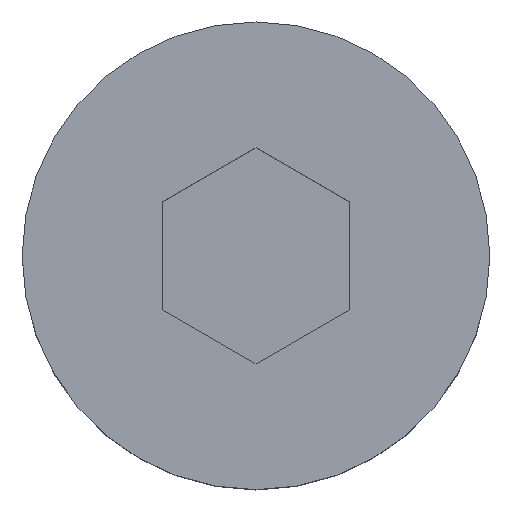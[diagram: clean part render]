
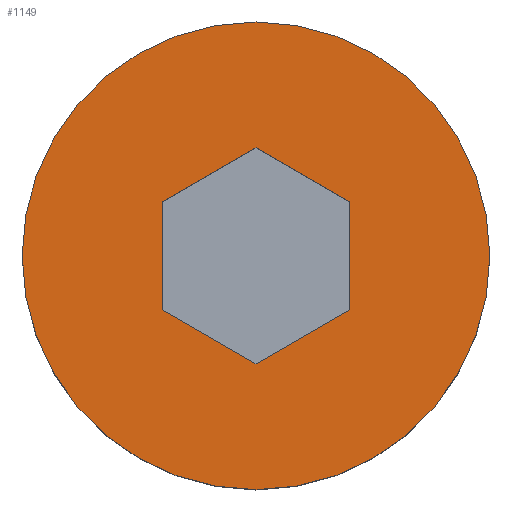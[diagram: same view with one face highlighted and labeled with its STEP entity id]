
A CAD part, top view. The second image highlights one B-rep face of the part: STEP entity #1149.
In plain terms, the highlighted planar face has unit normal (0, 0, 1).
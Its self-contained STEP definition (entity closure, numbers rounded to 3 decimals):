
#41 = VERTEX_POINT ( 'NONE', #222 ) ;
#49 = AXIS2_PLACEMENT_3D ( 'NONE', #679, #674, #670 ) ;
#69 = VERTEX_POINT ( 'NONE', #209 ) ;
#74 = CARTESIAN_POINT ( 'NONE',  ( 0., -4.619, 8. ) ) ;
#77 = DIRECTION ( 'NONE',  ( -0.866, -0.5, 0. ) ) ;
#78 = LINE ( 'NONE', #768, #576 ) ;
#79 = LINE ( 'NONE', #688, #1134 ) ;
#99 = CARTESIAN_POINT ( 'NONE',  ( 5.5, 7.794, 8. ) ) ;
#106 = CARTESIAN_POINT ( 'NONE',  ( 10., 0., 8. ) ) ;
#110 = CARTESIAN_POINT ( 'NONE',  ( -4., 2.309, 8. ) ) ;
#114 = DIRECTION ( 'NONE',  ( -1., 0., 0. ) ) ;
#120 = DIRECTION ( 'NONE',  ( 0., 0., -1. ) ) ;
#125 = CARTESIAN_POINT ( 'NONE',  ( 10., 0., 8. ) ) ;
#138 = EDGE_LOOP ( 'NONE', ( #807, #809 ) ) ;
#190 = LINE ( 'NONE', #759, #213 ) ;
#209 = CARTESIAN_POINT ( 'NONE',  ( 4., -2.309, 8. ) ) ;
#213 = VECTOR ( 'NONE', #659, 1000. ) ;
#222 = CARTESIAN_POINT ( 'NONE',  ( -4., -2.309, 8. ) ) ;
#263 = CIRCLE ( 'NONE', #1114, 10. ) ;
#367 = EDGE_LOOP ( 'NONE', ( #838, #857, #877, #893, #905, #931 ) ) ;
#370 = VERTEX_POINT ( 'NONE', #1112 ) ;
#372 = PLANE ( 'NONE',  #973 ) ;
#384 = VERTEX_POINT ( 'NONE', #743 ) ;
#404 = DIRECTION ( 'NONE',  ( 1., 0., 0. ) ) ;
#413 = CARTESIAN_POINT ( 'NONE',  ( 0., 0., 8. ) ) ;
#545 = VERTEX_POINT ( 'NONE', #1130 ) ;
#576 = VECTOR ( 'NONE', #601, 1000. ) ;
#601 = DIRECTION ( 'NONE',  ( 0., 1., 0. ) ) ;
#617 = FACE_BOUND ( 'NONE', #367, .T. ) ;
#636 = FACE_OUTER_BOUND ( 'NONE', #138, .T. ) ;
#642 = DIRECTION ( 'NONE',  ( 0., -1., 0. ) ) ;
#644 = CIRCLE ( 'NONE', #49, 10. ) ;
#654 = DIRECTION ( 'NONE',  ( -0.866, 0.5, 0. ) ) ;
#659 = DIRECTION ( 'NONE',  ( 0.866, -0.5, 0. ) ) ;
#664 = EDGE_CURVE ( 'NONE', #844, #69, #1193, .T. ) ;
#667 = EDGE_CURVE ( 'NONE', #41, #844, #190, .T. ) ;
#670 = DIRECTION ( 'NONE',  ( 1., 0., 0. ) ) ;
#673 = EDGE_CURVE ( 'NONE', #1179, #41, #700, .T. ) ;
#674 = DIRECTION ( 'NONE',  ( 0., 0., 1. ) ) ;
#679 = CARTESIAN_POINT ( 'NONE',  ( 0., 0., 8. ) ) ;
#684 = DIRECTION ( 'NONE',  ( 0.866, 0.5, 0. ) ) ;
#688 = CARTESIAN_POINT ( 'NONE',  ( 9.5, -0.866, 8. ) ) ;
#700 = LINE ( 'NONE', #715, #1170 ) ;
#712 = CARTESIAN_POINT ( 'NONE',  ( 9.5, 0.866, 8. ) ) ;
#715 = CARTESIAN_POINT ( 'NONE',  ( -4., 0., 8. ) ) ;
#743 = CARTESIAN_POINT ( 'NONE',  ( 0., 4.619, 8. ) ) ;
#759 = CARTESIAN_POINT ( 'NONE',  ( 5.5, -7.794, 8. ) ) ;
#768 = CARTESIAN_POINT ( 'NONE',  ( 4., 0., 8. ) ) ;
#806 = EDGE_CURVE ( 'NONE', #384, #1179, #944, .T. ) ;
#807 = ORIENTED_EDGE ( 'NONE', *, *, #967, .T. ) ;
#809 = ORIENTED_EDGE ( 'NONE', *, *, #896, .T. ) ;
#838 = ORIENTED_EDGE ( 'NONE', *, *, #806, .F. ) ;
#844 = VERTEX_POINT ( 'NONE', #74 ) ;
#857 = ORIENTED_EDGE ( 'NONE', *, *, #901, .F. ) ;
#877 = ORIENTED_EDGE ( 'NONE', *, *, #906, .F. ) ;
#883 = DIRECTION ( 'NONE',  ( 0., 0., 1. ) ) ;
#893 = ORIENTED_EDGE ( 'NONE', *, *, #664, .F. ) ;
#896 = EDGE_CURVE ( 'NONE', #370, #1185, #644, .T. ) ;
#901 = EDGE_CURVE ( 'NONE', #545, #384, #79, .T. ) ;
#905 = ORIENTED_EDGE ( 'NONE', *, *, #667, .F. ) ;
#906 = EDGE_CURVE ( 'NONE', #69, #545, #78, .T. ) ;
#931 = ORIENTED_EDGE ( 'NONE', *, *, #673, .F. ) ;
#943 = VECTOR ( 'NONE', #77, 1000. ) ;
#944 = LINE ( 'NONE', #99, #943 ) ;
#967 = EDGE_CURVE ( 'NONE', #1185, #370, #263, .T. ) ;
#973 = AXIS2_PLACEMENT_3D ( 'NONE', #125, #120, #114 ) ;
#1112 = CARTESIAN_POINT ( 'NONE',  ( -10., 0., 8. ) ) ;
#1114 = AXIS2_PLACEMENT_3D ( 'NONE', #413, #883, #404 ) ;
#1130 = CARTESIAN_POINT ( 'NONE',  ( 4., 2.309, 8. ) ) ;
#1134 = VECTOR ( 'NONE', #654, 1000. ) ;
#1149 = ADVANCED_FACE ( 'NONE', ( #636, #617 ), #372, .F. ) ;
#1170 = VECTOR ( 'NONE', #642, 1000. ) ;
#1179 = VERTEX_POINT ( 'NONE', #110 ) ;
#1183 = VECTOR ( 'NONE', #684, 1000. ) ;
#1185 = VERTEX_POINT ( 'NONE', #106 ) ;
#1193 = LINE ( 'NONE', #712, #1183 ) ;
